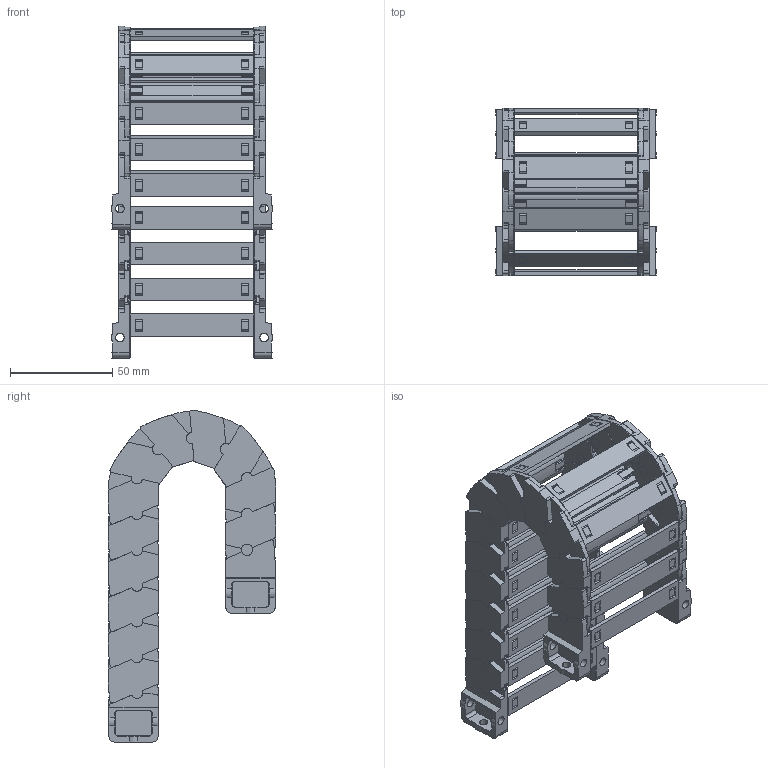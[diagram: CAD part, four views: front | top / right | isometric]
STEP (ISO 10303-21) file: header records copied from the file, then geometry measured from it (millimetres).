
FILE_DESCRIPTION((''),'2;1');
FILE_NAME('JY-18X60-R28_ASM','2022-05-06T08:34:00',('admin'),(''),'CREO PARAMETRIC BY PTC INC, 2021164','CREO PARAMETRIC BY PTC INC, 2021164','');
FILE_SCHEMA(('CONFIG_CONTROL_DESIGN','GEOMETRIC_VALIDATION_PROPERTIES_MIM'));
Length unit declared in the file: millimetre
Products named in the file (11): 18XL-L; 18XL-YP; 18XL-R; ASM0001_ASM; 18-LTT-A-L; 18-LTT-A-R; 18XL-LTT-A_ASM; 18-LTT-B-L; 18-LTT-B-R; 18XL-LTT-B_ASM; JY-18X60-R28_ASM
Assembly tree (26 placements, depth 3):
  JY-18X60-R28_ASM
    ASM0001_ASM  x12
      18XL-L
      18XL-YP
      18XL-R
    18XL-LTT-A_ASM
      18-LTT-A-L
      18XL-YP  x2
      18-LTT-A-R
    18XL-LTT-B_ASM
      18-LTT-B-L
      18XL-YP  x2
      18-LTT-B-R
Bounding box: 78.7 x 81.79 x 162.33 mm (x, y, z)
Volume: 113386.9 mm3; surface area: 109481 mm2
Topology: 56 solids, 56 shells, 3816 faces, 10815 edges, 7035 vertices
Faces by surface type: plane 1976, cylinder 1182, bspline 384, torus 232, cone 42
Entity records: 24024 total; most frequent: CARTESIAN_POINT 7275, ORIENTED_EDGE 3438, DIRECTION 3220, EDGE_CURVE 1719, VERTEX_POINT 1125, AXIS2_PLACEMENT_3D 1104, VECTOR 1012, LINE 1012
